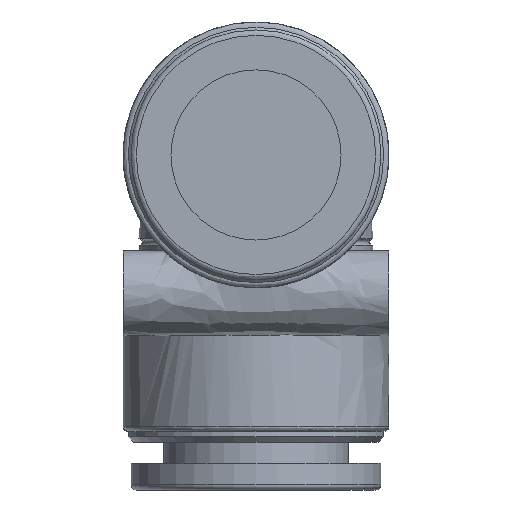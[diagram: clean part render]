
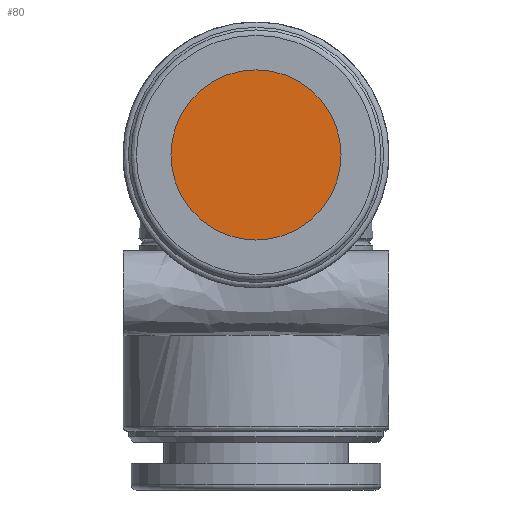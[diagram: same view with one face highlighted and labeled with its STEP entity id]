
A CAD part, left-side view. The second image highlights one B-rep face of the part: STEP entity #80.
In plain terms, the highlighted planar face has unit normal (-1, 0, 0).
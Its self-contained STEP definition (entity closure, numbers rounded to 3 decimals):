
#60=CARTESIAN_POINT('',(-8.2,8.0,0.0));
#61=VERTEX_POINT('',#60);
#62=CARTESIAN_POINT('',(-8.2,0.0,0.0));
#63=DIRECTION('',(1.0,0.0,0.0));
#64=DIRECTION('',(0.0,1.0,0.0));
#65=AXIS2_PLACEMENT_3D('',#62,#63,#64);
#66=CIRCLE('',#65,8.0);
#67=EDGE_CURVE('',#61,#61,#66,.T.);
#72=CARTESIAN_POINT('',(-8.2,0.0,0.0));
#73=DIRECTION('',(1.0,0.0,0.0));
#74=DIRECTION('',(0.0,1.0,0.0));
#75=AXIS2_PLACEMENT_3D('',#72,#73,#74);
#76=PLANE('',#75);
#77=ORIENTED_EDGE('',*,*,#67,.F.);
#78=EDGE_LOOP('',(#77));
#79=FACE_OUTER_BOUND('',#78,.T.);
#80=ADVANCED_FACE('',(#79),#76,.F.);
